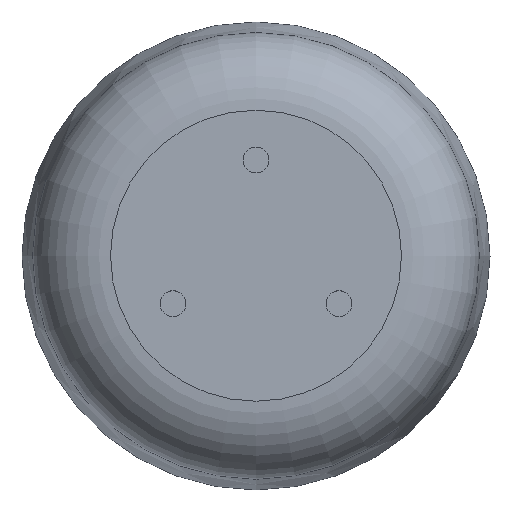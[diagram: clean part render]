
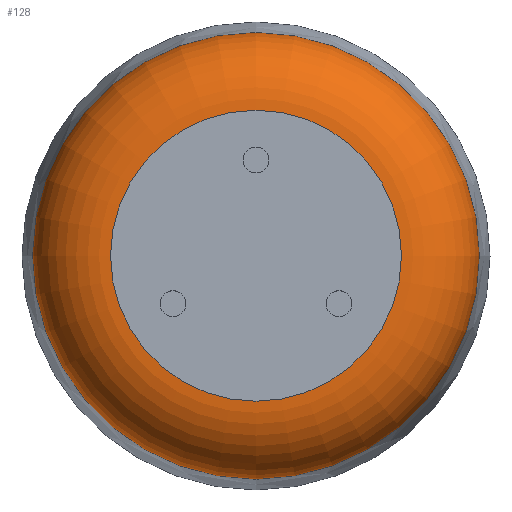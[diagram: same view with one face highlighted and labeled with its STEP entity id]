
A CAD part, top view. The second image highlights one B-rep face of the part: STEP entity #128.
In plain terms, the highlighted toroidal (fillet/blend) face has major radius 24.3 mm and minor radius 13 mm.
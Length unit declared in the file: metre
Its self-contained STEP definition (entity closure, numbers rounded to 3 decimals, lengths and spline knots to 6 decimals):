
#18=TOROIDAL_SURFACE('',#161,0.0243,0.013);
#30=ORIENTED_EDGE('',*,*,#44,.T.);
#31=ORIENTED_EDGE('',*,*,#48,.F.);
#44=EDGE_CURVE('',#55,#55,#66,.T.);
#48=EDGE_CURVE('',#59,#59,#70,.T.);
#55=VERTEX_POINT('',#231);
#59=VERTEX_POINT('',#240);
#66=CIRCLE('',#155,0.0373);
#70=CIRCLE('',#160,0.0243);
#85=EDGE_LOOP('',(#30));
#86=EDGE_LOOP('',(#31));
#107=FACE_BOUND('',#85,.T.);
#108=FACE_BOUND('',#86,.T.);
#128=ADVANCED_FACE('',(#107,#108),#18,.T.);
#155=AXIS2_PLACEMENT_3D('',#230,#187,#188);
#160=AXIS2_PLACEMENT_3D('',#239,#197,#198);
#161=AXIS2_PLACEMENT_3D('',#241,#199,#200);
#187=DIRECTION('',(0.,0.,1.));
#188=DIRECTION('',(1.,0.,0.));
#197=DIRECTION('',(0.,0.,1.));
#198=DIRECTION('',(1.,0.,0.));
#199=DIRECTION('',(0.,0.,1.));
#200=DIRECTION('',(1.,0.,0.));
#230=CARTESIAN_POINT('',(0.,0.,0.03866));
#231=CARTESIAN_POINT('',(0.0373,0.,0.03866));
#239=CARTESIAN_POINT('',(0.,0.,0.05166));
#240=CARTESIAN_POINT('',(0.0243,0.,0.05166));
#241=CARTESIAN_POINT('',(0.,0.,0.03866));
